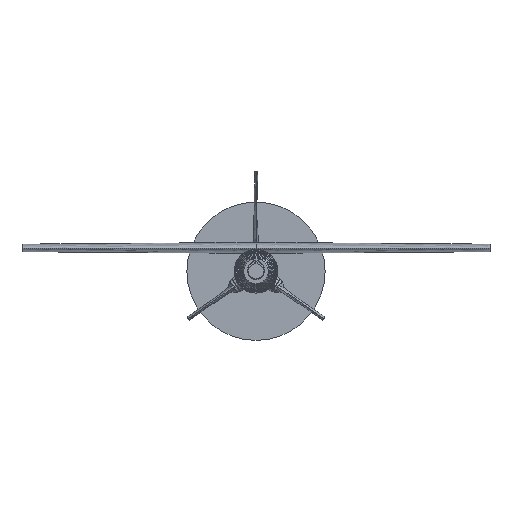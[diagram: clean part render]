
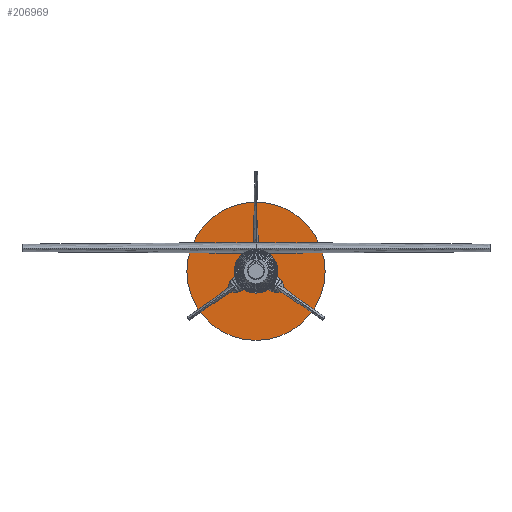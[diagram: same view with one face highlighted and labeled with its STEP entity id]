
A CAD part, left-side view. The second image highlights one B-rep face of the part: STEP entity #206969.
In plain terms, the highlighted planar face has unit normal (-1, 0, 0).
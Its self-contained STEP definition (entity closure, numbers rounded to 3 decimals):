
#206891 = CYLINDRICAL_SURFACE('',#206892,63.5);
#206892 = AXIS2_PLACEMENT_3D('',#206893,#206894,#206895);
#206893 = CARTESIAN_POINT('',(450.85,0.,0.));
#206894 = DIRECTION('',(1.,0.,0.));
#206895 = DIRECTION('',(-0.,0.,1.));
#206916 = VERTEX_POINT('',#206917);
#206917 = CARTESIAN_POINT('',(450.85,0.,63.5));
#206938 = EDGE_CURVE('',#206916,#206916,#206939,.T.);
#206939 = SURFACE_CURVE('',#206940,(#206945,#206952),.PCURVE_S1.);
#206940 = CIRCLE('',#206941,63.5);
#206941 = AXIS2_PLACEMENT_3D('',#206942,#206943,#206944);
#206942 = CARTESIAN_POINT('',(450.85,0.,0.));
#206943 = DIRECTION('',(1.,0.,0.));
#206944 = DIRECTION('',(-0.,0.,1.));
#206945 = PCURVE('',#206891,#206946);
#206946 = DEFINITIONAL_REPRESENTATION('',(#206947),#206951);
#206947 = LINE('',#206948,#206949);
#206948 = CARTESIAN_POINT('',(0.,0.));
#206949 = VECTOR('',#206950,1.);
#206950 = DIRECTION('',(1.,0.));
#206951 = ( GEOMETRIC_REPRESENTATION_CONTEXT(2) 
PARAMETRIC_REPRESENTATION_CONTEXT() REPRESENTATION_CONTEXT('2D SPACE',''
  ) );
#206952 = PCURVE('',#206953,#206958);
#206953 = PLANE('',#206954);
#206954 = AXIS2_PLACEMENT_3D('',#206955,#206956,#206957);
#206955 = CARTESIAN_POINT('',(450.85,0.,0.));
#206956 = DIRECTION('',(1.,0.,0.));
#206957 = DIRECTION('',(-0.,0.,1.));
#206958 = DEFINITIONAL_REPRESENTATION('',(#206959),#206963);
#206959 = CIRCLE('',#206960,63.5);
#206960 = AXIS2_PLACEMENT_2D('',#206961,#206962);
#206961 = CARTESIAN_POINT('',(0.,0.));
#206962 = DIRECTION('',(1.,0.));
#206963 = ( GEOMETRIC_REPRESENTATION_CONTEXT(2) 
PARAMETRIC_REPRESENTATION_CONTEXT() REPRESENTATION_CONTEXT('2D SPACE',''
  ) );
#206969 = ADVANCED_FACE('',(#206970),#206953,.F.);
#206970 = FACE_BOUND('',#206971,.T.);
#206971 = EDGE_LOOP('',(#206972));
#206972 = ORIENTED_EDGE('',*,*,#206938,.F.);
